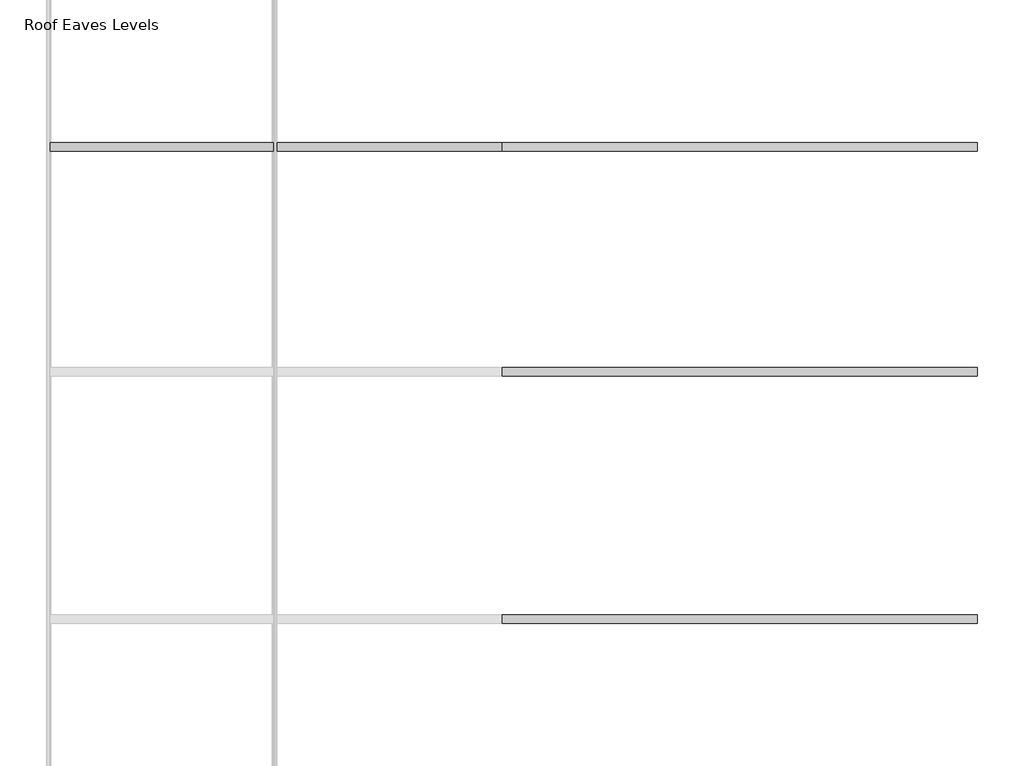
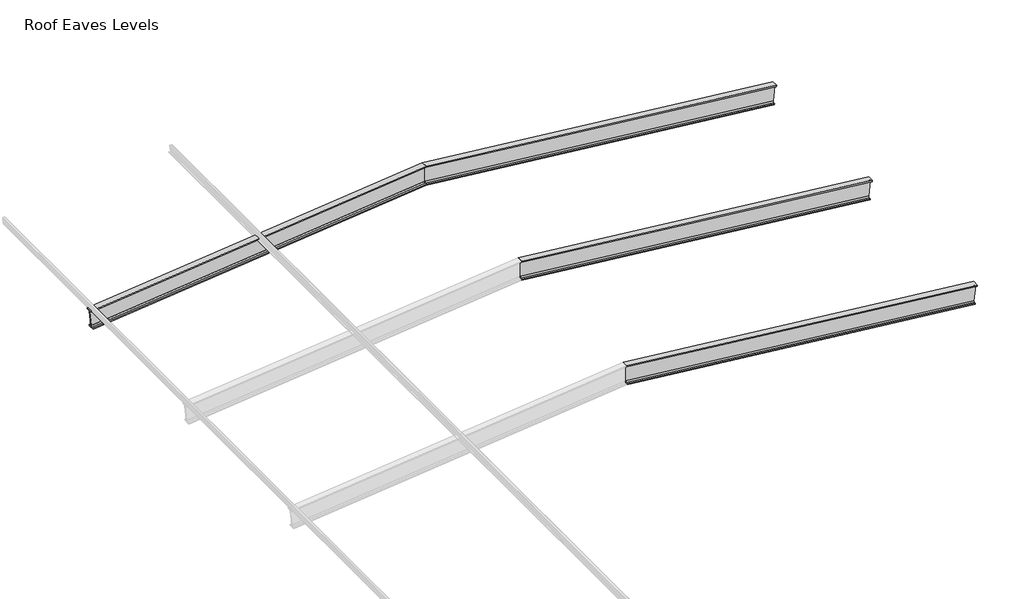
# One storey, part 2 of 2: 4 beams.
"""IFC4 building model written with IfcOpenShell, lengths in millimetres."""

from ifc_helpers import new_model, si_unit, frame, origin, place, context, project, spatial, polyline, circle_curve, ellipse_curve, element, save
from ifc_brep_helpers import plane_surface, revolved_surface, advanced_brep

model = new_model("IFC4")

# Units and contexts
model_context = context("Model", 3, world=origin())
ifc_project = project(units=[si_unit("LENGTHUNIT", "METRE", prefix="MILLI")], contexts=[model_context])

# Site, building, storey
site = spatial("IfcSite", under=ifc_project)
building = spatial("IfcBuilding", under=site)
storey = spatial("IfcBuildingStorey", under=building, Name="Roof Eaves Levels", Elevation=7900.0)

# Beams
placement = place(None, origin())
element("IfcBeam", 1, ObjectType="I-Beams : I600x190x16", at=placement, inside=storey, context=model_context, shape_type="AdvancedBrep", body=[
    advanced_brep(
    [(-21574.4385281, -11017.7846466, 7382.6858252), (-21570.7114031, -11017.7846466, 7347.8848404), (-21570.7114031, -11207.7846466, 7347.8848404), (-21574.4385281, -11207.7846466, 7382.6858252), (-21574.4385281, -11155.7846466, 7382.6858252), (-21578.1656531, -11120.7846466, 7417.4868099), (-21627.1507246, -11120.7846466, 7874.8711808), (-21630.8778496, -11155.7846466, 7909.6721656), (-21630.8778496, -11207.7846466, 7909.6721656), (-21634.6049746, -11207.7846466, 7944.4731503), (-21634.6049746, -11017.7846466, 7944.4731503), (-21630.8778496, -11017.7846466, 7909.6721656), (-21630.8778496, -11069.7846466, 7909.6721656), (-21627.1507246, -11104.7846466, 7874.8711808), (-21578.1656531, -11104.7846466, 7417.4868099), (-21574.4385281, -11069.7846466, 7382.6858252), (-11529.876801, -11069.7846466, 8458.4409363), (-11529.876801, -11017.7846466, 8458.4409363), (-11529.8856726, -11104.7846466, 8493.6401395), (-11530.0022718, -11104.7846466, 8956.2582389), (-11530.0111435, -11069.7846466, 8991.4574422), (-11530.0111435, -11017.7846466, 8991.4574422), (-11530.0200151, -11017.7846466, 9026.6566454), (-11530.0200151, -11207.7846466, 9026.6566454), (-11530.0111435, -11207.7846466, 8991.4574422), (-11530.0111435, -11155.7846466, 8991.4574422), (-11530.0022718, -11120.7846466, 8956.2582389), (-11529.8856726, -11120.7846466, 8493.6401395), (-11529.876801, -11155.7846466, 8458.4409363), (-11529.876801, -11207.7846466, 8458.4409363), (-11529.8679293, -11207.7846466, 8423.2417331), (-11529.8679293, -11017.7846466, 8423.2417331)],
    [
        (0, 1),
        (1, 2),
        (2, 3),
        (3, 4),
        (4, 5, circle_curve(frame((-21578.1656531, -11155.7846466, 7417.4868099), z_axis=(0.9943138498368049, 0.0, 0.10648928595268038), x_axis=(0.0, -1.0, 0.0)), 35.0)),
        (5, 6),
        (6, 7, circle_curve(frame((-21627.1507246, -11155.7846466, 7874.8711808), z_axis=(0.9943138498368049, 0.0, 0.10648928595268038), x_axis=(0.0, -1.0, 0.0)), 35.0)),
        (7, 8),
        (8, 9),
        (9, 10),
        (10, 11),
        (11, 12),
        (12, 13, circle_curve(frame((-21627.1507246, -11069.7846466, 7874.8711808), z_axis=(0.9943138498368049, 0.0, 0.10648928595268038), x_axis=(0.0, -1.0, 0.0)), 35.0)),
        (13, 14),
        (14, 15, circle_curve(frame((-21578.1656531, -11069.7846466, 7417.4868099), z_axis=(0.9943138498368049, 0.0, 0.10648928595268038), x_axis=(0.0, -1.0, 0.0)), 35.0)),
        (15, 0),
        (16, 17),
        (17, 0),
        (15, 16),
        (18, 16, ellipse_curve(frame((-11529.8856726, -11069.7846466, 8493.6401395), z_axis=(0.9999999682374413, 0.0, 0.0002520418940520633), x_axis=(0.00025204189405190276, 0.0, -0.9999999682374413)), 35.1992043, 35.0)),
        (14, 18),
        (19, 18),
        (13, 19),
        (20, 19, ellipse_curve(frame((-11530.0022718, -11069.7846466, 8956.2582389), z_axis=(0.9999999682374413, 0.0, 0.0002520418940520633), x_axis=(0.00025204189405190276, 0.0, -0.9999999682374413)), 35.1992043, 35.0)),
        (12, 20),
        (21, 20),
        (11, 21),
        (22, 21),
        (10, 22),
        (23, 22),
        (9, 23),
        (24, 23),
        (8, 24),
        (25, 24),
        (7, 25),
        (26, 25, ellipse_curve(frame((-11530.0022718, -11155.7846466, 8956.2582389), z_axis=(0.9999999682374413, 0.0, 0.0002520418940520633), x_axis=(0.00025204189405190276, 0.0, -0.9999999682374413)), 35.1992043, 35.0)),
        (6, 26),
        (27, 26),
        (5, 27),
        (28, 27, ellipse_curve(frame((-11529.8856726, -11155.7846466, 8493.6401395), z_axis=(0.9999999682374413, 0.0, 0.0002520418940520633), x_axis=(0.00025204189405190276, 0.0, -0.9999999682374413)), 35.1992043, 35.0)),
        (4, 28),
        (29, 28),
        (3, 29),
        (30, 29),
        (2, 30),
        (31, 30),
        (1, 31),
        (17, 31),
    ],
    [
        plane_surface(frame((-21602.6581888, -11112.7846466, 7646.1789954), z_axis=(-0.9943138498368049, 0.0, -0.10648928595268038), x_axis=(-0.10648928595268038, 0.0, 0.9943138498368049))),
        plane_surface(frame((-11469.8535686, -11017.7846466, 8464.8693202), z_axis=(-0.10648928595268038, 0.0, 0.9943138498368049), x_axis=(-0.9943138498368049, 0.0, -0.10648928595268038))),
        revolved_surface(polyline([(-21578.165653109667, -11104.7846466, 7417.486809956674), (-11526.167419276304, -11104.7846466, 8494.038358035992)]), (-11473.5806936, -11069.7846466, 8499.670305), (-0.9943138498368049, 0.0, -0.10648928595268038)),
        plane_surface(frame((-11473.5806936, -11104.7846466, 8499.670305), z_axis=(0.0, 1.0, 0.0), x_axis=(-0.9943138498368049, 0.0, -0.10648928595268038))),
        revolved_surface(polyline([(-21627.15072460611, -11104.7846466, 7874.871180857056), (-11526.284018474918, -11104.7846466, 8956.656457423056)]), (-11522.5657651, -11069.7846466, 8957.0546759), (-0.9943138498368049, 0.0, -0.10648928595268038)),
        plane_surface(frame((-11526.2928901, -11069.7846466, 8991.8556606), z_axis=(0.10648928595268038, 0.0, -0.9943138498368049), x_axis=(-0.9943138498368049, 0.0, -0.10648928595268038))),
        plane_surface(frame((-11526.2928901, -11017.7846466, 8991.8556606), z_axis=(0.0, 1.0, 0.0), x_axis=(-0.9943138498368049, 0.0, -0.10648928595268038))),
        plane_surface(frame((-11530.0200151, -11017.7846466, 9026.6566454), z_axis=(-0.10648928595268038, 0.0, 0.9943138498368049), x_axis=(-0.9943138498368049, 0.0, -0.10648928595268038))),
        plane_surface(frame((-11530.0200151, -11207.7846466, 9026.6566454), z_axis=(0.0, -1.0, 0.0), x_axis=(-0.9943138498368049, 0.0, -0.10648928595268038))),
        plane_surface(frame((-11526.2928901, -11207.7846466, 8991.8556606), z_axis=(0.10648928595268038, 0.0, -0.9943138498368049), x_axis=(-0.9943138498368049, 0.0, -0.10648928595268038))),
        revolved_surface(polyline([(-21627.15072460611, -11190.7846466, 7874.871180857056), (-11526.284018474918, -11190.7846466, 8956.656457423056)]), (-11522.5657651, -11155.7846466, 8957.0546759), (-0.9943138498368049, 0.0, -0.10648928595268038)),
        plane_surface(frame((-11522.5657651, -11120.7846466, 8957.0546759), z_axis=(0.0, -1.0, 0.0), x_axis=(-0.9943138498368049, 0.0, -0.10648928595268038))),
        revolved_surface(polyline([(-21578.165653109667, -11190.7846466, 7417.486809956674), (-11526.167419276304, -11190.7846466, 8494.038358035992)]), (-11473.5806936, -11155.7846466, 8499.670305), (-0.9943138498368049, 0.0, -0.10648928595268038)),
        plane_surface(frame((-11469.8535686, -11155.7846466, 8464.8693202), z_axis=(-0.10648928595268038, 0.0, 0.9943138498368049), x_axis=(-0.9943138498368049, 0.0, -0.10648928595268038))),
        plane_surface(frame((-11469.8535686, -11207.7846466, 8464.8693202), z_axis=(0.0, -1.0, 0.0), x_axis=(-0.9943138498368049, 0.0, -0.10648928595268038))),
        plane_surface(frame((-11466.1264436, -11207.7846466, 8430.0683355), z_axis=(0.10648928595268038, 0.0, -0.9943138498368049), x_axis=(-0.9943138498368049, 0.0, -0.10648928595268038))),
        plane_surface(frame((-11466.1264436, -11017.7846466, 8430.0683355), z_axis=(0.0, 1.0, 0.0), x_axis=(-0.9943138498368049, 0.0, -0.10648928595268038))),
        plane_surface(frame((-11530.0200151, -11112.7846466, 9026.6566454), z_axis=(0.9999999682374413, 0.0, 0.0002520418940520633), x_axis=(0.0, -1.0, 0.0))),
    ],
    [
        (0, [[1, 2, 3, 4, 5, 6, 7, 8, 9, 10, 11, 12, 13, 14, 15, 16]]),
        (1, [[17, 18, -16, 19]]),
        (2, [[20, -19, -15, 21]]),
        (3, [[22, -21, -14, 23]]),
        (4, [[24, -23, -13, 25]]),
        (5, [[26, -25, -12, 27]]),
        (6, [[28, -27, -11, 29]]),
        (7, [[30, -29, -10, 31]]),
        (8, [[32, -31, -9, 33]]),
        (9, [[34, -33, -8, 35]]),
        (10, [[36, -35, -7, 37]]),
        (11, [[38, -37, -6, 39]]),
        (12, [[40, -39, -5, 41]]),
        (13, [[42, -41, -4, 43]]),
        (14, [[44, -43, -3, 45]]),
        (15, [[46, -45, -2, 47]]),
        (16, [[48, -47, -1, -18]]),
        (17, [[-17, -20, -22, -24, -26, -28, -30, -32, -34, -36, -38, -40, -42, -44, -46, -48]]),
    ],
),
])
element("IfcBeam", 2, ObjectType="I-Beams : I600x190x16", at=placement, inside=storey, context=model_context, shape_type="AdvancedBrep", body=[
    advanced_brep(
    [(-1019.7444776, -11017.7846466, 7338.1824898), (-1019.7444776, -11069.7846466, 7338.1824898), (-1016.0348956, -11104.7846466, 7372.9853489), (-967.2803904, -11104.7846466, 7830.3943543), (-963.5708084, -11069.7846466, 7865.1972134), (-963.5708084, -11017.7846466, 7865.1972134), (-959.8612265, -11017.7846466, 7900.0000725), (-959.8612265, -11207.7846466, 7900.0000725), (-963.5708084, -11207.7846466, 7865.1972134), (-963.5708084, -11155.7846466, 7865.1972134), (-967.2803904, -11120.7846466, 7830.3943543), (-1016.0348956, -11120.7846466, 7372.9853489), (-1019.7444776, -11155.7846466, 7338.1824898), (-1019.7444776, -11207.7846466, 7338.1824898), (-1023.4540595, -11207.7846466, 7303.3796307), (-1023.4540595, -11017.7846466, 7303.3796307), (-11529.876801, -11017.7846466, 8458.4409363), (-11529.876801, -11069.7846466, 8458.4409363), (-11529.8856726, -11104.7846466, 8493.6401395), (-11530.0022718, -11104.7846466, 8956.2582389), (-11530.0111435, -11069.7846466, 8991.4574422), (-11530.0111435, -11017.7846466, 8991.4574422), (-11530.0200151, -11017.7846466, 9026.6566454), (-11530.0200151, -11207.7846466, 9026.6566454), (-11530.0111435, -11207.7846466, 8991.4574422), (-11530.0111435, -11155.7846466, 8991.4574422), (-11530.0022718, -11120.7846466, 8956.2582389), (-11529.8856726, -11120.7846466, 8493.6401395), (-11529.876801, -11155.7846466, 8458.4409363), (-11529.876801, -11207.7846466, 8458.4409363), (-11529.8679293, -11207.7846466, 8423.2417331), (-11529.8679293, -11017.7846466, 8423.2417331)],
    [
        (0, 1),
        (1, 2, circle_curve(frame((-1016.0348956, -11069.7846466, 7372.9853489), z_axis=(-0.9943674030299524, 0.0, 0.1059880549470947), x_axis=(0.0, -1.0, 0.0)), 35.0)),
        (2, 3),
        (3, 4, circle_curve(frame((-967.2803904, -11069.7846466, 7830.3943543), z_axis=(-0.9943674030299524, 0.0, 0.1059880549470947), x_axis=(0.0, -1.0, 0.0)), 35.0)),
        (4, 5),
        (5, 6),
        (6, 7),
        (7, 8),
        (8, 9),
        (9, 10, circle_curve(frame((-967.2803904, -11155.7846466, 7830.3943543), z_axis=(-0.9943674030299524, 0.0, 0.1059880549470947), x_axis=(0.0, -1.0, 0.0)), 35.0)),
        (10, 11),
        (11, 12, circle_curve(frame((-1016.0348956, -11155.7846466, 7372.9853489), z_axis=(-0.9943674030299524, 0.0, 0.1059880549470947), x_axis=(0.0, -1.0, 0.0)), 35.0)),
        (12, 13),
        (13, 14),
        (14, 15),
        (15, 0),
        (0, 16),
        (16, 17),
        (17, 1),
        (17, 18, ellipse_curve(frame((-11529.8856726, -11069.7846466, 8493.6401395), z_axis=(-0.9999999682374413, 0.0, -0.0002520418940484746), x_axis=(-0.00025204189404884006, 0.0, 0.9999999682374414)), 35.1992043, 35.0)),
        (18, 2),
        (18, 19),
        (19, 3),
        (19, 20, ellipse_curve(frame((-11530.0022718, -11069.7846466, 8956.2582389), z_axis=(-0.9999999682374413, 0.0, -0.0002520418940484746), x_axis=(-0.00025204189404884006, 0.0, 0.9999999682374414)), 35.1992043, 35.0)),
        (20, 4),
        (20, 21),
        (21, 5),
        (21, 22),
        (22, 6),
        (22, 23),
        (23, 7),
        (23, 24),
        (24, 8),
        (24, 25),
        (25, 9),
        (25, 26, ellipse_curve(frame((-11530.0022718, -11155.7846466, 8956.2582389), z_axis=(-0.9999999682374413, 0.0, -0.0002520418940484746), x_axis=(-0.00025204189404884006, 0.0, 0.9999999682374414)), 35.1992043, 35.0)),
        (26, 10),
        (26, 27),
        (27, 11),
        (27, 28, ellipse_curve(frame((-11529.8856726, -11155.7846466, 8493.6401395), z_axis=(-0.9999999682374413, 0.0, -0.0002520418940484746), x_axis=(-0.00025204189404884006, 0.0, 0.9999999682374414)), 35.1992043, 35.0)),
        (28, 12),
        (28, 29),
        (29, 13),
        (29, 30),
        (30, 14),
        (30, 31),
        (31, 15),
        (31, 16),
    ],
    [
        plane_surface(frame((-991.657643, -11112.7846466, 7601.6898516), z_axis=(0.9943674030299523, 0.0, -0.10598805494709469), x_axis=(0.10598805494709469, 0.0, 0.9943674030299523))),
        plane_surface(frame((-1019.7444776, -11017.7846466, 7338.1824898), z_axis=(0.1059880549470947, 0.0, 0.9943674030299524), x_axis=(-0.9943674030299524, 0.0, 0.1059880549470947))),
        revolved_surface(polyline([(-11533.604126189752, -11104.7846466, 8494.03648364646), (-1016.0348956, -11104.7846466, 7372.9853489)]), (-1016.0348956, -11069.7846466, 7372.9853489), (-0.9943674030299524, 0.0, 0.1059880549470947)),
        plane_surface(frame((-1016.0348956, -11104.7846466, 7372.9853489), z_axis=(0.0, 1.0, 0.0), x_axis=(-0.9943674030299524, 0.0, 0.1059880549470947))),
        revolved_surface(polyline([(-11533.720725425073, -11104.7846466, 8956.654583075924), (-967.2803903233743, -11104.7846466, 7830.394354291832)]), (-967.2803904, -11069.7846466, 7830.3943543), (-0.9943674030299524, 0.0, 0.1059880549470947)),
        plane_surface(frame((-963.5708084, -11069.7846466, 7865.1972134), z_axis=(-0.1059880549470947, 0.0, -0.9943674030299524), x_axis=(-0.9943674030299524, 0.0, 0.1059880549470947))),
        plane_surface(frame((-963.5708084, -11017.7846466, 7865.1972134), z_axis=(0.0, 1.0, 0.0), x_axis=(-0.9943674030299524, 0.0, 0.1059880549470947))),
        plane_surface(frame((-959.8612265, -11017.7846466, 7900.0000725), z_axis=(0.1059880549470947, 0.0, 0.9943674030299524), x_axis=(-0.9943674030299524, 0.0, 0.1059880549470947))),
        plane_surface(frame((-959.8612265, -11207.7846466, 7900.0000725), z_axis=(0.0, -1.0, 0.0), x_axis=(-0.9943674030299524, 0.0, 0.1059880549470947))),
        plane_surface(frame((-963.5708084, -11207.7846466, 7865.1972134), z_axis=(-0.1059880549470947, 0.0, -0.9943674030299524), x_axis=(-0.9943674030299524, 0.0, 0.1059880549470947))),
        revolved_surface(polyline([(-11533.720725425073, -11190.7846466, 8956.654583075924), (-967.2803903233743, -11190.7846466, 7830.394354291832)]), (-967.2803904, -11155.7846466, 7830.3943543), (-0.9943674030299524, 0.0, 0.1059880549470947)),
        plane_surface(frame((-967.2803904, -11120.7846466, 7830.3943543), z_axis=(0.0, -1.0, 0.0), x_axis=(-0.9943674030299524, 0.0, 0.1059880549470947))),
        revolved_surface(polyline([(-11533.604126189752, -11190.7846466, 8494.03648364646), (-1016.0348956, -11190.7846466, 7372.9853489)]), (-1016.0348956, -11155.7846466, 7372.9853489), (-0.9943674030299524, 0.0, 0.1059880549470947)),
        plane_surface(frame((-1019.7444776, -11155.7846466, 7338.1824898), z_axis=(0.1059880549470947, 0.0, 0.9943674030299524), x_axis=(-0.9943674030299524, 0.0, 0.1059880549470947))),
        plane_surface(frame((-1019.7444776, -11207.7846466, 7338.1824898), z_axis=(0.0, -1.0, 0.0), x_axis=(-0.9943674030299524, 0.0, 0.1059880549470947))),
        plane_surface(frame((-1023.4540595, -11207.7846466, 7303.3796307), z_axis=(-0.1059880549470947, 0.0, -0.9943674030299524), x_axis=(-0.9943674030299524, 0.0, 0.1059880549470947))),
        plane_surface(frame((-1023.4540595, -11017.7846466, 7303.3796307), z_axis=(0.0, 1.0, 0.0), x_axis=(-0.9943674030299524, 0.0, 0.1059880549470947))),
        plane_surface(frame((-11530.0200151, -11112.7846466, 9026.6566454), z_axis=(-0.9999999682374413, 0.0, -0.0002520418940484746), x_axis=(0.0, 1.0, 0.0))),
    ],
    [
        (0, [[1, 2, 3, 4, 5, 6, 7, 8, 9, 10, 11, 12, 13, 14, 15, 16]]),
        (1, [[-1, 17, 18, 19]]),
        (2, [[-2, -19, 20, 21]]),
        (3, [[-3, -21, 22, 23]]),
        (4, [[-4, -23, 24, 25]]),
        (5, [[-5, -25, 26, 27]]),
        (6, [[-6, -27, 28, 29]]),
        (7, [[-7, -29, 30, 31]]),
        (8, [[-8, -31, 32, 33]]),
        (9, [[-9, -33, 34, 35]]),
        (10, [[-10, -35, 36, 37]]),
        (11, [[-11, -37, 38, 39]]),
        (12, [[-12, -39, 40, 41]]),
        (13, [[-13, -41, 42, 43]]),
        (14, [[-14, -43, 44, 45]]),
        (15, [[-15, -45, 46, 47]]),
        (16, [[-16, -47, 48, -17]]),
        (17, [[-48, -46, -44, -42, -40, -38, -36, -34, -32, -30, -28, -26, -24, -22, -20, -18]]),
    ],
),
])
element("IfcBeam", 3, ObjectType="I-Beams : I600x190x16", at=placement, inside=storey, context=model_context, shape_type="AdvancedBrep", body=[
    advanced_brep(
    [(-1019.7444776, -16009.7846466, 7338.1824898), (-1019.7444776, -16061.7846466, 7338.1824898), (-1016.0348956, -16096.7846466, 7372.9853489), (-967.2803904, -16096.7846466, 7830.3943543), (-963.5708084, -16061.7846466, 7865.1972134), (-963.5708084, -16009.7846466, 7865.1972134), (-959.8612265, -16009.7846466, 7900.0000725), (-959.8612265, -16199.7846466, 7900.0000725), (-963.5708084, -16199.7846466, 7865.1972134), (-963.5708084, -16147.7846466, 7865.1972134), (-967.2803904, -16112.7846466, 7830.3943543), (-1016.0348956, -16112.7846466, 7372.9853489), (-1019.7444776, -16147.7846466, 7338.1824898), (-1019.7444776, -16199.7846466, 7338.1824898), (-1023.4540595, -16199.7846466, 7303.3796307), (-1023.4540595, -16009.7846466, 7303.3796307), (-11529.876801, -16009.7846466, 8458.4409363), (-11529.876801, -16061.7846466, 8458.4409363), (-11529.8856726, -16096.7846466, 8493.6401395), (-11530.0022718, -16096.7846466, 8956.2582389), (-11530.0111435, -16061.7846466, 8991.4574422), (-11530.0111435, -16009.7846466, 8991.4574422), (-11530.0200151, -16009.7846466, 9026.6566454), (-11530.0200151, -16199.7846466, 9026.6566454), (-11530.0111435, -16199.7846466, 8991.4574422), (-11530.0111435, -16147.7846466, 8991.4574422), (-11530.0022718, -16112.7846466, 8956.2582389), (-11529.8856726, -16112.7846466, 8493.6401395), (-11529.876801, -16147.7846466, 8458.4409363), (-11529.876801, -16199.7846466, 8458.4409363), (-11529.8679293, -16199.7846466, 8423.2417331), (-11529.8679293, -16009.7846466, 8423.2417331)],
    [
        (0, 1),
        (1, 2, circle_curve(frame((-1016.0348956, -16061.7846466, 7372.9853489), z_axis=(-0.9943674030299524, 0.0, 0.1059880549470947), x_axis=(0.0, -1.0, 0.0)), 35.0)),
        (2, 3),
        (3, 4, circle_curve(frame((-967.2803904, -16061.7846466, 7830.3943543), z_axis=(-0.9943674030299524, 0.0, 0.1059880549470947), x_axis=(0.0, -1.0, 0.0)), 35.0)),
        (4, 5),
        (5, 6),
        (6, 7),
        (7, 8),
        (8, 9),
        (9, 10, circle_curve(frame((-967.2803904, -16147.7846466, 7830.3943543), z_axis=(-0.9943674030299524, 0.0, 0.1059880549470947), x_axis=(0.0, -1.0, 0.0)), 35.0)),
        (10, 11),
        (11, 12, circle_curve(frame((-1016.0348956, -16147.7846466, 7372.9853489), z_axis=(-0.9943674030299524, 0.0, 0.1059880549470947), x_axis=(0.0, -1.0, 0.0)), 35.0)),
        (12, 13),
        (13, 14),
        (14, 15),
        (15, 0),
        (0, 16),
        (16, 17),
        (17, 1),
        (17, 18, ellipse_curve(frame((-11529.8856726, -16061.7846466, 8493.6401395), z_axis=(-0.9999999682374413, 0.0, -0.0002520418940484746), x_axis=(-0.00025204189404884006, 0.0, 0.9999999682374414)), 35.1992043, 35.0)),
        (18, 2),
        (18, 19),
        (19, 3),
        (19, 20, ellipse_curve(frame((-11530.0022718, -16061.7846466, 8956.2582389), z_axis=(-0.9999999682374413, 0.0, -0.0002520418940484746), x_axis=(-0.00025204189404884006, 0.0, 0.9999999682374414)), 35.1992043, 35.0)),
        (20, 4),
        (20, 21),
        (21, 5),
        (21, 22),
        (22, 6),
        (22, 23),
        (23, 7),
        (23, 24),
        (24, 8),
        (24, 25),
        (25, 9),
        (25, 26, ellipse_curve(frame((-11530.0022718, -16147.7846466, 8956.2582389), z_axis=(-0.9999999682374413, 0.0, -0.0002520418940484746), x_axis=(-0.00025204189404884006, 0.0, 0.9999999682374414)), 35.1992043, 35.0)),
        (26, 10),
        (26, 27),
        (27, 11),
        (27, 28, ellipse_curve(frame((-11529.8856726, -16147.7846466, 8493.6401395), z_axis=(-0.9999999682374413, 0.0, -0.0002520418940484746), x_axis=(-0.00025204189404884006, 0.0, 0.9999999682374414)), 35.1992043, 35.0)),
        (28, 12),
        (28, 29),
        (29, 13),
        (29, 30),
        (30, 14),
        (30, 31),
        (31, 15),
        (31, 16),
    ],
    [
        plane_surface(frame((-991.657643, -16104.7846466, 7601.6898516), z_axis=(0.9943674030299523, 0.0, -0.10598805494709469), x_axis=(0.10598805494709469, 0.0, 0.9943674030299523))),
        plane_surface(frame((-1019.7444776, -16009.7846466, 7338.1824898), z_axis=(0.1059880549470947, 0.0, 0.9943674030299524), x_axis=(-0.9943674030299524, 0.0, 0.1059880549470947))),
        revolved_surface(polyline([(-11533.604126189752, -16096.7846466, 8494.03648364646), (-1016.0348956, -16096.7846466, 7372.9853489)]), (-1016.0348956, -16061.7846466, 7372.9853489), (-0.9943674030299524, 0.0, 0.1059880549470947)),
        plane_surface(frame((-1016.0348956, -16096.7846466, 7372.9853489), z_axis=(0.0, 1.0, 0.0), x_axis=(-0.9943674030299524, 0.0, 0.1059880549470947))),
        revolved_surface(polyline([(-11533.720725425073, -16096.7846466, 8956.654583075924), (-967.2803903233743, -16096.7846466, 7830.394354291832)]), (-967.2803904, -16061.7846466, 7830.3943543), (-0.9943674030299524, 0.0, 0.1059880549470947)),
        plane_surface(frame((-963.5708084, -16061.7846466, 7865.1972134), z_axis=(-0.1059880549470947, 0.0, -0.9943674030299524), x_axis=(-0.9943674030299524, 0.0, 0.1059880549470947))),
        plane_surface(frame((-963.5708084, -16009.7846466, 7865.1972134), z_axis=(0.0, 1.0, 0.0), x_axis=(-0.9943674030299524, 0.0, 0.1059880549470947))),
        plane_surface(frame((-959.8612265, -16009.7846466, 7900.0000725), z_axis=(0.1059880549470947, 0.0, 0.9943674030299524), x_axis=(-0.9943674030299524, 0.0, 0.1059880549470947))),
        plane_surface(frame((-959.8612265, -16199.7846466, 7900.0000725), z_axis=(0.0, -1.0, 0.0), x_axis=(-0.9943674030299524, 0.0, 0.1059880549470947))),
        plane_surface(frame((-963.5708084, -16199.7846466, 7865.1972134), z_axis=(-0.1059880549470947, 0.0, -0.9943674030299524), x_axis=(-0.9943674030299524, 0.0, 0.1059880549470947))),
        revolved_surface(polyline([(-11533.720725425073, -16182.7846466, 8956.654583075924), (-967.2803903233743, -16182.7846466, 7830.394354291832)]), (-967.2803904, -16147.7846466, 7830.3943543), (-0.9943674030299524, 0.0, 0.1059880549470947)),
        plane_surface(frame((-967.2803904, -16112.7846466, 7830.3943543), z_axis=(0.0, -1.0, 0.0), x_axis=(-0.9943674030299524, 0.0, 0.1059880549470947))),
        revolved_surface(polyline([(-11533.604126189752, -16182.7846466, 8494.03648364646), (-1016.0348956, -16182.7846466, 7372.9853489)]), (-1016.0348956, -16147.7846466, 7372.9853489), (-0.9943674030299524, 0.0, 0.1059880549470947)),
        plane_surface(frame((-1019.7444776, -16147.7846466, 7338.1824898), z_axis=(0.1059880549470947, 0.0, 0.9943674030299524), x_axis=(-0.9943674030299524, 0.0, 0.1059880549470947))),
        plane_surface(frame((-1019.7444776, -16199.7846466, 7338.1824898), z_axis=(0.0, -1.0, 0.0), x_axis=(-0.9943674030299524, 0.0, 0.1059880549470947))),
        plane_surface(frame((-1023.4540595, -16199.7846466, 7303.3796307), z_axis=(-0.1059880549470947, 0.0, -0.9943674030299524), x_axis=(-0.9943674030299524, 0.0, 0.1059880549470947))),
        plane_surface(frame((-1023.4540595, -16009.7846466, 7303.3796307), z_axis=(0.0, 1.0, 0.0), x_axis=(-0.9943674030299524, 0.0, 0.1059880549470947))),
        plane_surface(frame((-11530.0200151, -16104.7846466, 9026.6566454), z_axis=(-0.9999999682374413, 0.0, -0.0002520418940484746), x_axis=(0.0, 1.0, 0.0))),
    ],
    [
        (0, [[1, 2, 3, 4, 5, 6, 7, 8, 9, 10, 11, 12, 13, 14, 15, 16]]),
        (1, [[-1, 17, 18, 19]]),
        (2, [[-2, -19, 20, 21]]),
        (3, [[-3, -21, 22, 23]]),
        (4, [[-4, -23, 24, 25]]),
        (5, [[-5, -25, 26, 27]]),
        (6, [[-6, -27, 28, 29]]),
        (7, [[-7, -29, 30, 31]]),
        (8, [[-8, -31, 32, 33]]),
        (9, [[-9, -33, 34, 35]]),
        (10, [[-10, -35, 36, 37]]),
        (11, [[-11, -37, 38, 39]]),
        (12, [[-12, -39, 40, 41]]),
        (13, [[-13, -41, 42, 43]]),
        (14, [[-14, -43, 44, 45]]),
        (15, [[-15, -45, 46, 47]]),
        (16, [[-16, -47, 48, -17]]),
        (17, [[-48, -46, -44, -42, -40, -38, -36, -34, -32, -30, -28, -26, -24, -22, -20, -18]]),
    ],
),
])
element("IfcBeam", 4, ObjectType="I-Beams : I600x190x16", at=placement, inside=storey, context=model_context, shape_type="AdvancedBrep", body=[
    advanced_brep(
    [(-1019.7444776, -21509.7846466, 7338.1824898), (-1019.7444776, -21561.7846466, 7338.1824898), (-1016.0348956, -21596.7846466, 7372.9853489), (-967.2803904, -21596.7846466, 7830.3943543), (-963.5708084, -21561.7846466, 7865.1972134), (-963.5708084, -21509.7846466, 7865.1972134), (-959.8612265, -21509.7846466, 7900.0000725), (-959.8612265, -21699.7846466, 7900.0000725), (-963.5708084, -21699.7846466, 7865.1972134), (-963.5708084, -21647.7846466, 7865.1972134), (-967.2803904, -21612.7846466, 7830.3943543), (-1016.0348956, -21612.7846466, 7372.9853489), (-1019.7444776, -21647.7846466, 7338.1824898), (-1019.7444776, -21699.7846466, 7338.1824898), (-1023.4540595, -21699.7846466, 7303.3796307), (-1023.4540595, -21509.7846466, 7303.3796307), (-11529.876801, -21509.7846466, 8458.4409363), (-11529.876801, -21561.7846466, 8458.4409363), (-11529.8856726, -21596.7846466, 8493.6401395), (-11530.0022718, -21596.7846466, 8956.2582389), (-11530.0111435, -21561.7846466, 8991.4574422), (-11530.0111435, -21509.7846466, 8991.4574422), (-11530.0200151, -21509.7846466, 9026.6566454), (-11530.0200151, -21699.7846466, 9026.6566454), (-11530.0111435, -21699.7846466, 8991.4574422), (-11530.0111435, -21647.7846466, 8991.4574422), (-11530.0022718, -21612.7846466, 8956.2582389), (-11529.8856726, -21612.7846466, 8493.6401395), (-11529.876801, -21647.7846466, 8458.4409363), (-11529.876801, -21699.7846466, 8458.4409363), (-11529.8679293, -21699.7846466, 8423.2417331), (-11529.8679293, -21509.7846466, 8423.2417331)],
    [
        (0, 1),
        (1, 2, circle_curve(frame((-1016.0348956, -21561.7846466, 7372.9853489), z_axis=(-0.9943674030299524, 0.0, 0.1059880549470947), x_axis=(0.0, -1.0, 0.0)), 35.0)),
        (2, 3),
        (3, 4, circle_curve(frame((-967.2803904, -21561.7846466, 7830.3943543), z_axis=(-0.9943674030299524, 0.0, 0.1059880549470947), x_axis=(0.0, -1.0, 0.0)), 35.0)),
        (4, 5),
        (5, 6),
        (6, 7),
        (7, 8),
        (8, 9),
        (9, 10, circle_curve(frame((-967.2803904, -21647.7846466, 7830.3943543), z_axis=(-0.9943674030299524, 0.0, 0.1059880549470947), x_axis=(0.0, -1.0, 0.0)), 35.0)),
        (10, 11),
        (11, 12, circle_curve(frame((-1016.0348956, -21647.7846466, 7372.9853489), z_axis=(-0.9943674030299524, 0.0, 0.1059880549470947), x_axis=(0.0, -1.0, 0.0)), 35.0)),
        (12, 13),
        (13, 14),
        (14, 15),
        (15, 0),
        (0, 16),
        (16, 17),
        (17, 1),
        (17, 18, ellipse_curve(frame((-11529.8856726, -21561.7846466, 8493.6401395), z_axis=(-0.9999999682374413, 0.0, -0.0002520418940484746), x_axis=(-0.00025204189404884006, 0.0, 0.9999999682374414)), 35.1992043, 35.0)),
        (18, 2),
        (18, 19),
        (19, 3),
        (19, 20, ellipse_curve(frame((-11530.0022718, -21561.7846466, 8956.2582389), z_axis=(-0.9999999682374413, 0.0, -0.0002520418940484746), x_axis=(-0.00025204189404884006, 0.0, 0.9999999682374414)), 35.1992043, 35.0)),
        (20, 4),
        (20, 21),
        (21, 5),
        (21, 22),
        (22, 6),
        (22, 23),
        (23, 7),
        (23, 24),
        (24, 8),
        (24, 25),
        (25, 9),
        (25, 26, ellipse_curve(frame((-11530.0022718, -21647.7846466, 8956.2582389), z_axis=(-0.9999999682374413, 0.0, -0.0002520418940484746), x_axis=(-0.00025204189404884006, 0.0, 0.9999999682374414)), 35.1992043, 35.0)),
        (26, 10),
        (26, 27),
        (27, 11),
        (27, 28, ellipse_curve(frame((-11529.8856726, -21647.7846466, 8493.6401395), z_axis=(-0.9999999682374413, 0.0, -0.0002520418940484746), x_axis=(-0.00025204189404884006, 0.0, 0.9999999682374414)), 35.1992043, 35.0)),
        (28, 12),
        (28, 29),
        (29, 13),
        (29, 30),
        (30, 14),
        (30, 31),
        (31, 15),
        (31, 16),
    ],
    [
        plane_surface(frame((-991.657643, -21604.7846466, 7601.6898516), z_axis=(0.9943674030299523, 0.0, -0.10598805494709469), x_axis=(0.10598805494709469, 0.0, 0.9943674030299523))),
        plane_surface(frame((-1019.7444776, -21509.7846466, 7338.1824898), z_axis=(0.1059880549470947, 0.0, 0.9943674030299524), x_axis=(-0.9943674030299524, 0.0, 0.1059880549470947))),
        revolved_surface(polyline([(-11533.604126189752, -21596.7846466, 8494.03648364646), (-1016.0348956, -21596.7846466, 7372.9853489)]), (-1016.0348956, -21561.7846466, 7372.9853489), (-0.9943674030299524, 0.0, 0.1059880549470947)),
        plane_surface(frame((-1016.0348956, -21596.7846466, 7372.9853489), z_axis=(0.0, 1.0, 0.0), x_axis=(-0.9943674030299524, 0.0, 0.1059880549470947))),
        revolved_surface(polyline([(-11533.720725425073, -21596.7846466, 8956.654583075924), (-967.2803903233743, -21596.7846466, 7830.394354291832)]), (-967.2803904, -21561.7846466, 7830.3943543), (-0.9943674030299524, 0.0, 0.1059880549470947)),
        plane_surface(frame((-963.5708084, -21561.7846466, 7865.1972134), z_axis=(-0.1059880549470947, 0.0, -0.9943674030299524), x_axis=(-0.9943674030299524, 0.0, 0.1059880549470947))),
        plane_surface(frame((-963.5708084, -21509.7846466, 7865.1972134), z_axis=(0.0, 1.0, 0.0), x_axis=(-0.9943674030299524, 0.0, 0.1059880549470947))),
        plane_surface(frame((-959.8612265, -21509.7846466, 7900.0000725), z_axis=(0.1059880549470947, 0.0, 0.9943674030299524), x_axis=(-0.9943674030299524, 0.0, 0.1059880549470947))),
        plane_surface(frame((-959.8612265, -21699.7846466, 7900.0000725), z_axis=(0.0, -1.0, 0.0), x_axis=(-0.9943674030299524, 0.0, 0.1059880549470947))),
        plane_surface(frame((-963.5708084, -21699.7846466, 7865.1972134), z_axis=(-0.1059880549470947, 0.0, -0.9943674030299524), x_axis=(-0.9943674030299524, 0.0, 0.1059880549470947))),
        revolved_surface(polyline([(-11533.720725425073, -21682.7846466, 8956.654583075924), (-967.2803903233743, -21682.7846466, 7830.394354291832)]), (-967.2803904, -21647.7846466, 7830.3943543), (-0.9943674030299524, 0.0, 0.1059880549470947)),
        plane_surface(frame((-967.2803904, -21612.7846466, 7830.3943543), z_axis=(0.0, -1.0, 0.0), x_axis=(-0.9943674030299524, 0.0, 0.1059880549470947))),
        revolved_surface(polyline([(-11533.604126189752, -21682.7846466, 8494.03648364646), (-1016.0348956, -21682.7846466, 7372.9853489)]), (-1016.0348956, -21647.7846466, 7372.9853489), (-0.9943674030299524, 0.0, 0.1059880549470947)),
        plane_surface(frame((-1019.7444776, -21647.7846466, 7338.1824898), z_axis=(0.1059880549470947, 0.0, 0.9943674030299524), x_axis=(-0.9943674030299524, 0.0, 0.1059880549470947))),
        plane_surface(frame((-1019.7444776, -21699.7846466, 7338.1824898), z_axis=(0.0, -1.0, 0.0), x_axis=(-0.9943674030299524, 0.0, 0.1059880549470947))),
        plane_surface(frame((-1023.4540595, -21699.7846466, 7303.3796307), z_axis=(-0.1059880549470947, 0.0, -0.9943674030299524), x_axis=(-0.9943674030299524, 0.0, 0.1059880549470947))),
        plane_surface(frame((-1023.4540595, -21509.7846466, 7303.3796307), z_axis=(0.0, 1.0, 0.0), x_axis=(-0.9943674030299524, 0.0, 0.1059880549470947))),
        plane_surface(frame((-11530.0200151, -21604.7846466, 9026.6566454), z_axis=(-0.9999999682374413, 0.0, -0.0002520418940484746), x_axis=(0.0, 1.0, 0.0))),
    ],
    [
        (0, [[1, 2, 3, 4, 5, 6, 7, 8, 9, 10, 11, 12, 13, 14, 15, 16]]),
        (1, [[-1, 17, 18, 19]]),
        (2, [[-2, -19, 20, 21]]),
        (3, [[-3, -21, 22, 23]]),
        (4, [[-4, -23, 24, 25]]),
        (5, [[-5, -25, 26, 27]]),
        (6, [[-6, -27, 28, 29]]),
        (7, [[-7, -29, 30, 31]]),
        (8, [[-8, -31, 32, 33]]),
        (9, [[-9, -33, 34, 35]]),
        (10, [[-10, -35, 36, 37]]),
        (11, [[-11, -37, 38, 39]]),
        (12, [[-12, -39, 40, 41]]),
        (13, [[-13, -41, 42, 43]]),
        (14, [[-14, -43, 44, 45]]),
        (15, [[-15, -45, 46, 47]]),
        (16, [[-16, -47, 48, -17]]),
        (17, [[-48, -46, -44, -42, -40, -38, -36, -34, -32, -30, -28, -26, -24, -22, -20, -18]]),
    ],
),
])

save(model, "model.ifc")
